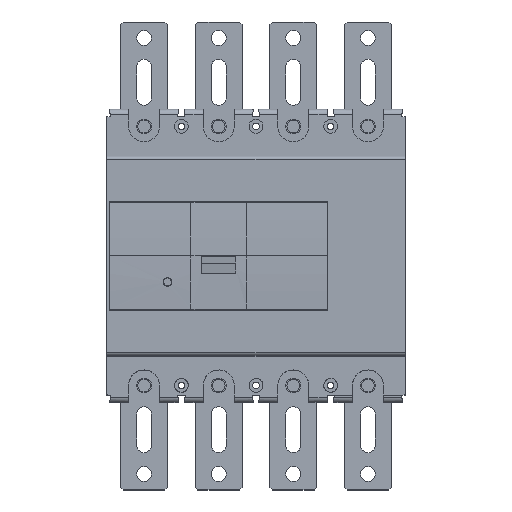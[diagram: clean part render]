
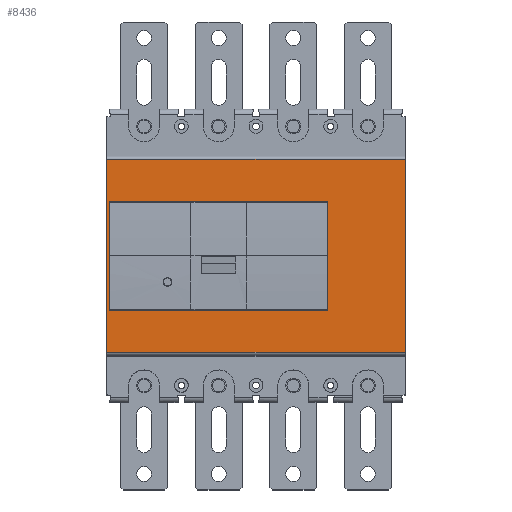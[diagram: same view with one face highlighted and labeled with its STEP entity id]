
A CAD part, top view. The second image highlights one B-rep face of the part: STEP entity #8436.
In plain terms, the highlighted planar face has unit normal (0, 0, 1).
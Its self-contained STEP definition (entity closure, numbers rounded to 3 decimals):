
#162 = CARTESIAN_POINT ( 'NONE',  ( 102., 0., 103. ) ) ;
#212 = CARTESIAN_POINT ( 'NONE',  ( -102., 0., 103. ) ) ;
#351 = EDGE_CURVE ( 'NONE', #9487, #7269, #8253, .T. ) ;
#408 = LINE ( 'NONE', #13297, #1603 ) ;
#489 = VECTOR ( 'NONE', #10750, 1000. ) ;
#593 = CARTESIAN_POINT ( 'NONE',  ( -105., 0., 103. ) ) ;
#730 = CARTESIAN_POINT ( 'NONE',  ( 105., -90.5, 103. ) ) ;
#891 = EDGE_CURVE ( 'NONE', #10421, #14025, #3987, .T. ) ;
#938 = ORIENTED_EDGE ( 'NONE', *, *, #891, .T. ) ;
#1165 = LINE ( 'NONE', #10853, #489 ) ;
#1317 = ORIENTED_EDGE ( 'NONE', *, *, #4028, .T. ) ;
#1505 = CARTESIAN_POINT ( 'NONE',  ( 102., 51., 103. ) ) ;
#1603 = VECTOR ( 'NONE', #7878, 1000. ) ;
#1626 = VECTOR ( 'NONE', #4715, 1000. ) ;
#1862 = LINE ( 'NONE', #593, #11729 ) ;
#1977 = VERTEX_POINT ( 'NONE', #2152 ) ;
#2145 = ORIENTED_EDGE ( 'NONE', *, *, #12338, .F. ) ;
#2152 = CARTESIAN_POINT ( 'NONE',  ( 175., -90.5, 103. ) ) ;
#2280 = AXIS2_PLACEMENT_3D ( 'NONE', #5393, #5440, #12983 ) ;
#2675 = FACE_BOUND ( 'NONE', #3467, .T. ) ;
#2707 = ORIENTED_EDGE ( 'NONE', *, *, #8458, .F. ) ;
#3005 = EDGE_CURVE ( 'NONE', #1977, #5534, #8261, .T. ) ;
#3332 = VERTEX_POINT ( 'NONE', #11230 ) ;
#3467 = EDGE_LOOP ( 'NONE', ( #2145, #938, #1317, #6682 ) ) ;
#3639 = CARTESIAN_POINT ( 'NONE',  ( 105., 90.5, 103. ) ) ;
#3709 = CARTESIAN_POINT ( 'NONE',  ( 102., -51., 103. ) ) ;
#3987 = LINE ( 'NONE', #162, #9798 ) ;
#4028 = EDGE_CURVE ( 'NONE', #14025, #7269, #408, .T. ) ;
#4076 = CARTESIAN_POINT ( 'NONE',  ( -102., 51., 103. ) ) ;
#4564 = DIRECTION ( 'NONE',  ( 0., -1., 0. ) ) ;
#4715 = DIRECTION ( 'NONE',  ( 0., -1., 0. ) ) ;
#4936 = DIRECTION ( 'NONE',  ( 0., -1., 0. ) ) ;
#5217 = VERTEX_POINT ( 'NONE', #7932 ) ;
#5393 = CARTESIAN_POINT ( 'NONE',  ( 105., 0., 103. ) ) ;
#5440 = DIRECTION ( 'NONE',  ( 0., 0., -1. ) ) ;
#5534 = VERTEX_POINT ( 'NONE', #11151 ) ;
#6355 = DIRECTION ( 'NONE',  ( -1., 0., 0. ) ) ;
#6682 = ORIENTED_EDGE ( 'NONE', *, *, #351, .F. ) ;
#7109 = LINE ( 'NONE', #11012, #8974 ) ;
#7269 = VERTEX_POINT ( 'NONE', #13224 ) ;
#7311 = EDGE_CURVE ( 'NONE', #3332, #5534, #1862, .T. ) ;
#7616 = DIRECTION ( 'NONE',  ( 0., -1., 0. ) ) ;
#7768 = VECTOR ( 'NONE', #6355, 1000. ) ;
#7776 = ORIENTED_EDGE ( 'NONE', *, *, #3005, .F. ) ;
#7878 = DIRECTION ( 'NONE',  ( -1., 0., 0. ) ) ;
#7932 = CARTESIAN_POINT ( 'NONE',  ( 175., 90.5, 103. ) ) ;
#8253 = LINE ( 'NONE', #212, #1626 ) ;
#8261 = LINE ( 'NONE', #730, #7768 ) ;
#8436 = ADVANCED_FACE ( 'NONE', ( #2675, #10339 ), #11880, .F. ) ;
#8458 = EDGE_CURVE ( 'NONE', #5217, #1977, #7109, .T. ) ;
#8726 = ORIENTED_EDGE ( 'NONE', *, *, #7311, .T. ) ;
#8868 = LINE ( 'NONE', #3639, #13650 ) ;
#8974 = VECTOR ( 'NONE', #7616, 1000. ) ;
#9285 = ORIENTED_EDGE ( 'NONE', *, *, #9833, .T. ) ;
#9487 = VERTEX_POINT ( 'NONE', #4076 ) ;
#9798 = VECTOR ( 'NONE', #4564, 1000. ) ;
#9833 = EDGE_CURVE ( 'NONE', #5217, #3332, #8868, .T. ) ;
#10339 = FACE_OUTER_BOUND ( 'NONE', #10626, .T. ) ;
#10421 = VERTEX_POINT ( 'NONE', #1505 ) ;
#10626 = EDGE_LOOP ( 'NONE', ( #8726, #7776, #2707, #9285 ) ) ;
#10750 = DIRECTION ( 'NONE',  ( -1., 0., 0. ) ) ;
#10853 = CARTESIAN_POINT ( 'NONE',  ( 102., 51., 103. ) ) ;
#11012 = CARTESIAN_POINT ( 'NONE',  ( 175., 0., 103. ) ) ;
#11151 = CARTESIAN_POINT ( 'NONE',  ( -105., -90.5, 103. ) ) ;
#11230 = CARTESIAN_POINT ( 'NONE',  ( -105., 90.5, 103. ) ) ;
#11585 = DIRECTION ( 'NONE',  ( -1., 0., 0. ) ) ;
#11729 = VECTOR ( 'NONE', #4936, 1000. ) ;
#11880 = PLANE ( 'NONE',  #2280 ) ;
#12338 = EDGE_CURVE ( 'NONE', #10421, #9487, #1165, .T. ) ;
#12983 = DIRECTION ( 'NONE',  ( 0., 1., 0. ) ) ;
#13224 = CARTESIAN_POINT ( 'NONE',  ( -102., -51., 103. ) ) ;
#13297 = CARTESIAN_POINT ( 'NONE',  ( 102., -51., 103. ) ) ;
#13650 = VECTOR ( 'NONE', #11585, 1000. ) ;
#14025 = VERTEX_POINT ( 'NONE', #3709 ) ;
